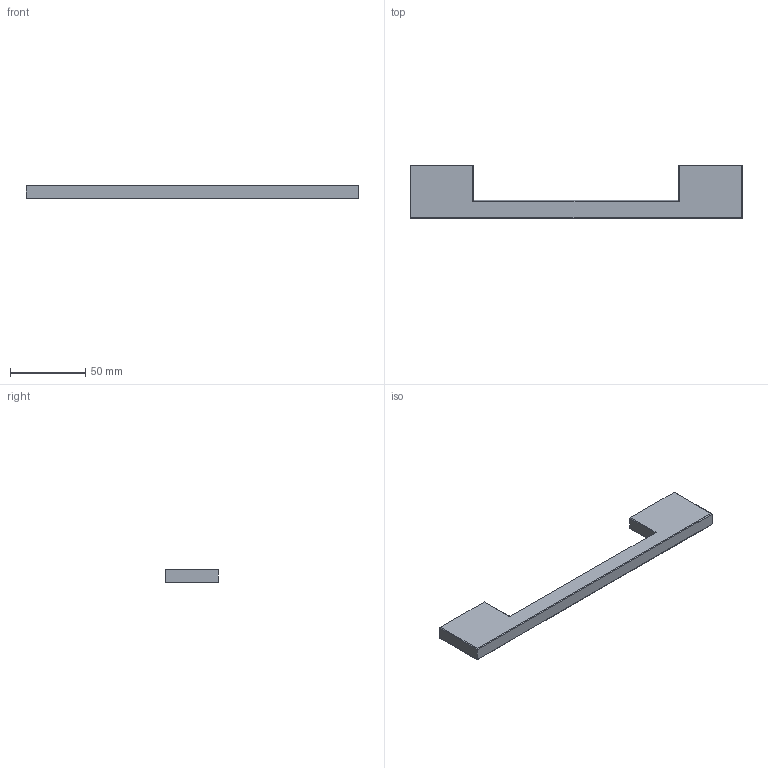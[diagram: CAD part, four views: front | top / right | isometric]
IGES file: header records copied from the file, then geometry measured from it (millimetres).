
Start section: Data from Parasolid IGES Translator 15.0.47, Copyright(c) 2006 Siemens P LM Software. All Rights Reserved.
Global section: file name: 9995585.igs; native system:  By UGS Corp.; preprocessor: XPlus GENERIC/IGES 3.0; author: Noname; organization: Noname; date: 20140122.183117; units: millimetre
Bounding box: 220 x 35.01 x 9.01 mm (x, y, z)
Surface area: 14027.6 mm2 (no closed solid volume)
Topology: 0 solids, 0 shells, 24 faces, 112 edges, 110 vertices
Faces by surface type: revolution 13, extrusion 11
